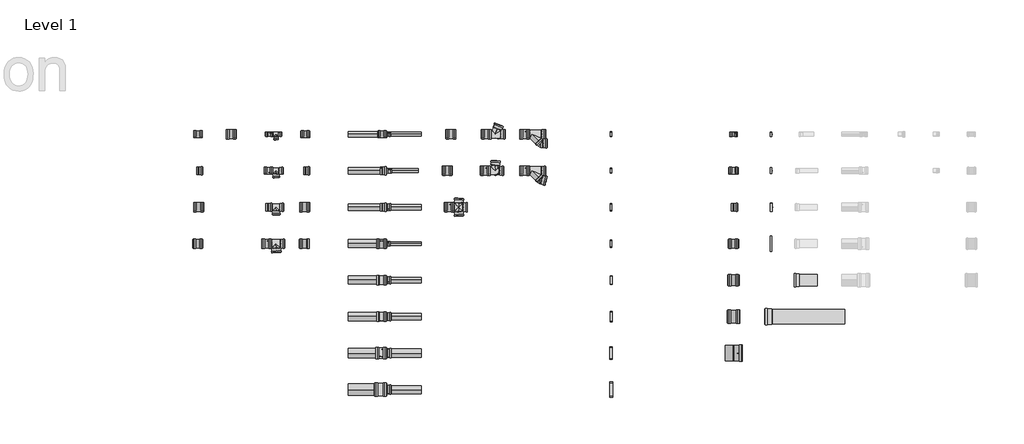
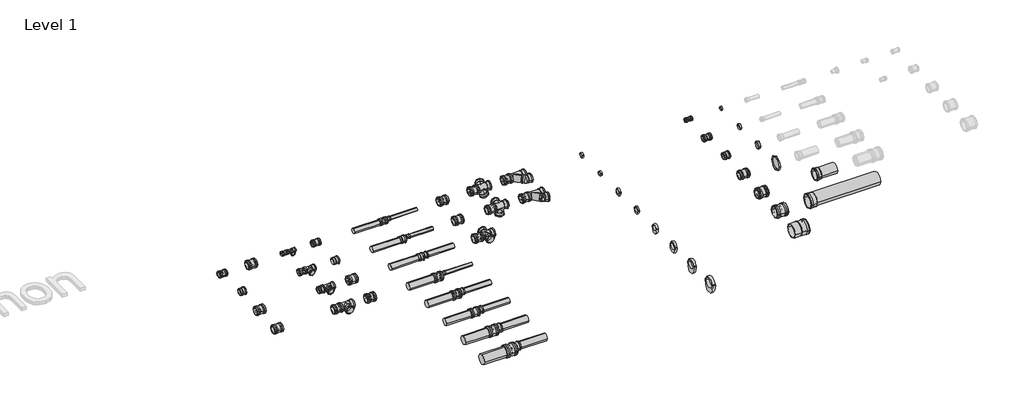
# One storey, part 2 of 3: 65 pipe fittings, 16 pipe segments, 8 valves.
"""IFC4 building model written with IfcOpenShell, lengths in millimetres."""

from ifc_helpers import new_model, si_unit, point, frame, frame_2d, origin, place, context, project, spatial, circle_curve, trimmed, segment, composite_curve, outline, extrude, transform, mapped, element, save
from components import pipe_fitting_0ced1fed, scp_parallel_e82be407, variable_82db6654, variable_50a6ec3d, variable_dd3b78e0, variable_3cd19208, variable_d2549ebe, variable_3cc18dde, variable_b4140f98, variable_fae0d510, variable_5deffc85, variable_7ff62537, variable_02581a42, variable_b181c17a, variable_11fd8723, variable_8ebde9d2, variable_34d79cbe, variable_b4e09c3a, variable_a446220a, variable_4479d033, variable_dde04700, variable_4588926f, variable_dae65326, variable_6d194c15, variable_2b32ee90, variable_52af7f45, variable_031db8d6, variable_7b3f4d0f, variable_81fd169b, variable_7b2c6562, variable_43ff1c23, variable_7b8b6ad0, variable_95dfb28e, variable_e1d51fd6, variable_fc7f2102, variable_69012b91, variable_43e88fef, variable_5c5cefdd, variable_5a5fc637, variable_bbadd806, variable_dcf68d9f, variable_3c150e15, variable_b777e5b6, variable_1d454c51

model = new_model("IFC4")

# Units and contexts
model_context = context("Model", 3, world=origin())
ifc_project = project(units=[si_unit("LENGTHUNIT", "METRE", prefix="MILLI")], contexts=[model_context])

# Site, building, storey
site = spatial("IfcSite", under=ifc_project)
building = spatial("IfcBuilding", under=site)
storey = spatial("IfcBuildingStorey", under=building, Name="Level 1", Elevation=0.0)

# Pipe fittings
placement = place(None, origin())
pipe_fitting_shape = pipe_fitting_0ced1fed(model_context)
element("IfcPipeFitting", 1, ObjectType="AliaxisFR_Friaphon_SpecialDoubleBranch_FR : SCT 15°", at=placement, inside=storey, context=model_context, shape_type="MappedRepresentation", body=[
    mapped(pipe_fitting_shape, transform((20670.1690876, -12904.8725202, 0.0), x_axis=(1.0, 0.0, 0.0), y_axis=(0.0, 1.0, 0.0), z_axis=(0.0, 0.0, 1.0))),
])
scp_parallel_shape = scp_parallel_e82be407(model_context)
element("IfcPipeFitting", 2, ObjectType="AliaxisFR_Friaphon_SpecialDoubleBranch_FR : SCP parallel", at=placement, inside=storey, context=model_context, shape_type="MappedRepresentation", body=[
    mapped(scp_parallel_shape, transform((20670.1690876, -12404.8725202, 0.0), x_axis=(1.0, 0.0, 0.0), y_axis=(0.0, 1.0, 0.0), z_axis=(0.0, 0.0, 1.0))),
])
variable_shape = variable_82db6654(model_context)
element("IfcPipeFitting", 3, ObjectType="AliaxisFR_Friaphon_DoubleCornerBranch_FR : Variable", at=placement, inside=storey, context=model_context, shape_type="MappedRepresentation", body=[
    mapped(variable_shape, transform((20170.1690876, -12404.8725202, 0.0), x_axis=(1.0, 0.0, 0.0), y_axis=(0.0, 1.0, 0.0), z_axis=(0.0, 0.0, 1.0))),
])
variable_2_shape = variable_50a6ec3d(model_context)
element("IfcPipeFitting", 4, ObjectType="AliaxisFR_Friaphon_AcousticCoupling_FR : Variable", at=placement, inside=storey, context=model_context, shape_type="MappedRepresentation", body=[
    mapped(variable_2_shape, transform((17079.6690876, -12404.8725202, 0.0), x_axis=(1.0, 0.0, 0.0), y_axis=(0.0, 1.0, 0.0), z_axis=(0.0, 0.0, 1.0))),
])
element("IfcPipeFitting", 5, ObjectType="AliaxisFR_Friaphon_AcousticCoupling_FR : Variable", at=placement, inside=storey, context=model_context, shape_type="MappedRepresentation", body=[
    mapped(variable_2_shape, transform((23432.3883735, -12404.8725202, 0.0), x_axis=(1.0, 0.0, 0.0), y_axis=(0.0, 1.0, 0.0), z_axis=(0.0, 0.0, 1.0))),
])
variable_3_shape = variable_dd3b78e0(model_context)
element("IfcPipeFitting", 6, ObjectType="AliaxisFR_Friaphon_Cap_FR : Variable", at=placement, inside=storey, context=model_context, shape_type="MappedRepresentation", body=[
    mapped(variable_3_shape, transform((23438.8883735, -13904.8725202, 0.0), x_axis=(1.0, 0.0, 0.0), y_axis=(0.0, 1.0, 0.0), z_axis=(0.0, 0.0, 1.0))),
])
variable_4_shape = variable_3cd19208(model_context)
element("IfcPipeFitting", 7, ObjectType="AliaxisFR_Friaphon_DoubleParallelBranch_FR : Variable", at=placement, inside=storey, context=model_context, shape_type="MappedRepresentation", body=[
    mapped(variable_4_shape, transform((19670.1690876, -13404.8725202, 0.0), x_axis=(1.0, 0.0, 0.0), y_axis=(0.0, 1.0, 0.0), z_axis=(0.0, 0.0, 1.0))),
])
variable_5_shape = variable_d2549ebe(model_context)
element("IfcPipeFitting", 8, ObjectType="AliaxisFR_Friaphon_DoubleCornerBranch_FR : Variable", at=placement, inside=storey, context=model_context, shape_type="MappedRepresentation", body=[
    mapped(variable_5_shape, transform((20170.1690876, -12904.8725202, 0.0), x_axis=(1.0, 0.0, 0.0), y_axis=(0.0, 1.0, 0.0), z_axis=(0.0, 0.0, 1.0))),
])
variable_6_shape = variable_3cc18dde(model_context)
element("IfcPipeFitting", 9, ObjectType="AliaxisFR_Friaphon_ScrewCap_FR : Variable", at=placement, inside=storey, context=model_context, shape_type="MappedRepresentation", body=[
    mapped(variable_6_shape, transform((23938.8883735, -13904.8725202, 0.0), x_axis=(1.0, 0.0, 0.0), y_axis=(0.0, 1.0, 0.0), z_axis=(0.0, 0.0, 1.0))),
])
variable_7_shape = variable_b4140f98(model_context)
element("IfcPipeFitting", 10, ObjectType="AliaxisFR_Friaphon_ScrewCap_FR : Variable", at=placement, inside=storey, context=model_context, shape_type="MappedRepresentation", body=[
    mapped(variable_7_shape, transform((23938.8883735, -12404.8725202, 0.0), x_axis=(1.0, 0.0, 0.0), y_axis=(0.0, 1.0, 0.0), z_axis=(0.0, 0.0, 1.0))),
])
variable_8_shape = variable_fae0d510(model_context)
element("IfcPipeFitting", 11, ObjectType="AliaxisFR_Friaphon_ScrewCap_FR : Variable", at=placement, inside=storey, context=model_context, shape_type="MappedRepresentation", body=[
    mapped(variable_8_shape, transform((23938.8883735, -12904.8725202, 0.0), x_axis=(1.0, 0.0, 0.0), y_axis=(0.0, 1.0, 0.0), z_axis=(0.0, 0.0, 1.0))),
])
variable_9_shape = variable_5deffc85(model_context)
element("IfcPipeFitting", 12, ObjectType="AliaxisFR_Friaphon_ScrewCap_FR : Variable", at=placement, inside=storey, context=model_context, shape_type="MappedRepresentation", body=[
    mapped(variable_9_shape, transform((23938.8883735, -13404.8725202, 0.0), x_axis=(1.0, 0.0, 0.0), y_axis=(0.0, 1.0, 0.0), z_axis=(0.0, 0.0, 1.0))),
])
variable_10_shape = variable_7ff62537(model_context)
element("IfcPipeFitting", 13, ObjectType="AliaxisFR_Friaphon_Cap_FR : Variable", at=placement, inside=storey, context=model_context, shape_type="MappedRepresentation", body=[
    mapped(variable_10_shape, transform((23438.8883735, -12404.8725202, 0.0), x_axis=(1.0, 0.0, 0.0), y_axis=(0.0, 1.0, 0.0), z_axis=(0.0, 0.0, 1.0))),
])
variable_11_shape = variable_02581a42(model_context)
element("IfcPipeFitting", 14, ObjectType="AliaxisFR_Friaphon_Cap_FR : Variable", at=placement, inside=storey, context=model_context, shape_type="MappedRepresentation", body=[
    mapped(variable_11_shape, transform((23438.8883735, -12904.8725202, 0.0), x_axis=(1.0, 0.0, 0.0), y_axis=(0.0, 1.0, 0.0), z_axis=(0.0, 0.0, 1.0))),
])
variable_12_shape = variable_b181c17a(model_context)
element("IfcPipeFitting", 15, ObjectType="AliaxisFR_Friaphon_Cap_FR : Variable", at=placement, inside=storey, context=model_context, shape_type="MappedRepresentation", body=[
    mapped(variable_12_shape, transform((23438.8883735, -13404.8725202, 0.0), x_axis=(1.0, 0.0, 0.0), y_axis=(0.0, 1.0, 0.0), z_axis=(0.0, 0.0, 1.0))),
])
variable_13_shape = variable_11fd8723(model_context)
element("IfcPipeFitting", 16, ObjectType="AliaxisFR_Friaphon_Cap_FR : Variable", at=placement, inside=storey, context=model_context, shape_type="MappedRepresentation", body=[
    mapped(variable_13_shape, transform((23438.8883735, -14404.8725202, 0.0), x_axis=(1.0, 0.0, 0.0), y_axis=(0.0, 1.0, 0.0), z_axis=(0.0, 0.0, 1.0))),
])
variable_14_shape = variable_8ebde9d2(model_context)
element("IfcPipeFitting", 17, ObjectType="AliaxisFR_Friaphon_Cap_FR : Variable", at=placement, inside=storey, context=model_context, shape_type="MappedRepresentation", body=[
    mapped(variable_14_shape, transform((23438.8883735, -14904.8725202, 0.0), x_axis=(1.0, 0.0, 0.0), y_axis=(0.0, 1.0, 0.0), z_axis=(0.0, 0.0, 1.0))),
])
variable_15_shape = variable_34d79cbe(model_context)
element("IfcPipeFitting", 18, ObjectType="AliaxisFR_Friaphon_Cap_FR : Variable", at=placement, inside=storey, context=model_context, shape_type="MappedRepresentation", body=[
    mapped(variable_15_shape, transform((23438.8883735, -15404.8725202, 0.0), x_axis=(1.0, 0.0, 0.0), y_axis=(0.0, 1.0, 0.0), z_axis=(0.0, 0.0, 1.0))),
])
variable_16_shape = variable_b4e09c3a(model_context)
element("IfcPipeFitting", 19, ObjectType="AliaxisFR_Friaphon_Reducer_FR : Variable", at=placement, inside=storey, context=model_context, shape_type="MappedRepresentation", body=[
    mapped(variable_16_shape, transform((18660.8862163, -12404.8725202, 0.0), x_axis=(1.0, 0.0, 0.0), y_axis=(0.0, 1.0, 0.0), z_axis=(0.0, 0.0, 1.0))),
])
variable_17_shape = variable_a446220a(model_context)
element("IfcPipeFitting", 20, ObjectType="AliaxisFR_Friaphon_Reducer_FR : Variable", at=placement, inside=storey, context=model_context, shape_type="MappedRepresentation", body=[
    mapped(variable_17_shape, transform((18668.1362163, -12904.8725202, 0.0), x_axis=(1.0, 0.0, 0.0), y_axis=(0.0, 1.0, 0.0), z_axis=(0.0, 0.0, 1.0))),
])
variable_18_shape = variable_4479d033(model_context)
element("IfcPipeFitting", 21, ObjectType="AliaxisFR_Friaphon_Reducer_FR : Variable", at=placement, inside=storey, context=model_context, shape_type="MappedRepresentation", body=[
    mapped(variable_18_shape, transform((18658.1362163, -13404.8725202, 0.0), x_axis=(-1.0, 0.0, 0.0), y_axis=(0.0, -1.0, 0.0), z_axis=(0.0, 0.0, 1.0))),
])
variable_19_shape = variable_dde04700(model_context)
element("IfcPipeFitting", 22, ObjectType="AliaxisFR_Friaphon_Reducer_FR : Variable", at=placement, inside=storey, context=model_context, shape_type="MappedRepresentation", body=[
    mapped(variable_19_shape, transform((18656.6362163, -13904.8725202, 0.0), x_axis=(1.0, 0.0, 0.0), y_axis=(0.0, 1.0, 0.0), z_axis=(0.0, 0.0, 1.0))),
])
variable_20_shape = variable_4588926f(model_context)
element("IfcPipeFitting", 23, ObjectType="AliaxisFR_Friaphon_Reducer_FR : Variable", at=placement, inside=storey, context=model_context, shape_type="MappedRepresentation", body=[
    mapped(variable_20_shape, transform((18656.6362163, -14404.8725202, 0.0), x_axis=(-1.0, 0.0, 0.0), y_axis=(0.0, -1.0, 0.0), z_axis=(0.0, 0.0, 1.0))),
])
variable_21_shape = variable_dae65326(model_context)
element("IfcPipeFitting", 24, ObjectType="AliaxisFR_Friaphon_Reducer_FR : Variable", at=placement, inside=storey, context=model_context, shape_type="MappedRepresentation", body=[
    mapped(variable_21_shape, transform((18656.8862163, -14904.8725202, 0.0), x_axis=(-1.0, 0.0, 0.0), y_axis=(0.0, -1.0, 0.0), z_axis=(0.0, 0.0, 1.0))),
])
variable_22_shape = variable_6d194c15(model_context)
element("IfcPipeFitting", 25, ObjectType="AliaxisFR_Friaphon_Reducer_FR : Variable", at=placement, inside=storey, context=model_context, shape_type="MappedRepresentation", body=[
    mapped(variable_22_shape, transform((18653.3862163, -15404.8725202, 0.0), x_axis=(-1.0, 0.0, 0.0), y_axis=(0.0, -1.0, 0.0), z_axis=(0.0, 0.0, 1.0))),
])
variable_23_shape = variable_2b32ee90(model_context)
element("IfcPipeFitting", 26, ObjectType="AliaxisFR_Friaphon_Reducer_FR : Variable", at=placement, inside=storey, context=model_context, shape_type="MappedRepresentation", body=[
    mapped(variable_23_shape, transform((18648.1362163, -15904.8725202, 0.0), x_axis=(-1.0, 0.0, 0.0), y_axis=(0.0, -1.0, 0.0), z_axis=(0.0, 0.0, 1.0))),
])
variable_24_shape = variable_52af7f45(model_context)
element("IfcPipeFitting", 27, ObjectType="AliaxisFR_Friaphon_Branch_FR : Variable", at=placement, inside=storey, context=model_context, shape_type="MappedRepresentation", body=[
    mapped(variable_24_shape, transform((17170.1690876, -12404.8725202, 0.0), x_axis=(1.0, 0.0, 0.0), y_axis=(0.0, 1.0, 0.0), z_axis=(0.0, 0.0, 1.0))),
])
variable_25_shape = variable_031db8d6(model_context)
element("IfcPipeFitting", 28, ObjectType="AliaxisFR_Friaphon_Branch_FR : Variable", at=placement, inside=storey, context=model_context, shape_type="MappedRepresentation", body=[
    mapped(variable_25_shape, transform((17170.1690876, -12904.8725202, 0.0), x_axis=(1.0, 0.0, 0.0), y_axis=(0.0, 1.0, 0.0), z_axis=(0.0, 0.0, 1.0))),
])
variable_26_shape = variable_7b3f4d0f(model_context)
element("IfcPipeFitting", 29, ObjectType="AliaxisFR_Friaphon_Branch_FR : Variable", at=placement, inside=storey, context=model_context, shape_type="MappedRepresentation", body=[
    mapped(variable_26_shape, transform((17170.1690876, -13404.8725202, 0.0), x_axis=(1.0, 0.0, 0.0), y_axis=(0.0, 1.0, 0.0), z_axis=(0.0, 0.0, 1.0))),
])
variable_27_shape = variable_81fd169b(model_context)
element("IfcPipeFitting", 30, ObjectType="AliaxisFR_Friaphon_Branch_FR : Variable", at=placement, inside=storey, context=model_context, shape_type="MappedRepresentation", body=[
    mapped(variable_27_shape, transform((17170.1690876, -13904.8725202, 0.0), x_axis=(1.0, 0.0, 0.0), y_axis=(0.0, 1.0, 0.0), z_axis=(0.0, 0.0, 1.0))),
])
variable_28_shape = variable_7b2c6562(model_context)
element("IfcPipeFitting", 31, ObjectType="AliaxisFR_Friaphon_AcousticCoupling_FR : Variable", at=placement, inside=storey, context=model_context, shape_type="MappedRepresentation", body=[
    mapped(variable_28_shape, transform((18624.6362163, -12404.8725202, -13.0), x_axis=(1.0, 0.0, 0.0), y_axis=(0.0, 1.0, 0.0), z_axis=(0.0, 0.0, 1.0))),
])
element("IfcPipeFitting", 32, ObjectType="AliaxisFR_Friaphon_AcousticCoupling_FR : Variable", at=placement, inside=storey, context=model_context, shape_type="MappedRepresentation", body=[
    mapped(variable_28_shape, transform((16102.6690876, -12404.8725202, 0.0), x_axis=(1.0, 0.0, 0.0), y_axis=(0.0, 1.0, 0.0), z_axis=(0.0, 0.0, 1.0))),
])
element("IfcPipeFitting", 33, ObjectType="AliaxisFR_Friaphon_AcousticCoupling_FR : Variable", at=placement, inside=storey, context=model_context, shape_type="MappedRepresentation", body=[
    mapped(variable_28_shape, transform((17067.6690876, -12904.8725202, 0.0), x_axis=(1.0, 0.0, 0.0), y_axis=(0.0, 1.0, 0.0), z_axis=(0.0, 0.0, 1.0))),
])
element("IfcPipeFitting", 34, ObjectType="AliaxisFR_Friaphon_AcousticCoupling_FR : Variable", at=placement, inside=storey, context=model_context, shape_type="MappedRepresentation", body=[
    mapped(variable_28_shape, transform((17571.6690876, -12404.8725202, 0.0), x_axis=(1.0, 0.0, 0.0), y_axis=(0.0, 1.0, 0.0), z_axis=(0.0, 0.0, 1.0))),
])
element("IfcPipeFitting", 35, ObjectType="AliaxisFR_Friaphon_AcousticCoupling_FR : Variable", at=placement, inside=storey, context=model_context, shape_type="MappedRepresentation", body=[
    mapped(variable_28_shape, transform((23432.3883735, -12904.8725202, 0.0), x_axis=(1.0, 0.0, 0.0), y_axis=(0.0, 1.0, 0.0), z_axis=(0.0, 0.0, 1.0))),
])
variable_29_shape = variable_43ff1c23(model_context)
element("IfcPipeFitting", 36, ObjectType="AliaxisFR_Friaphon_AcousticCoupling_FR : Variable", at=placement, inside=storey, context=model_context, shape_type="MappedRepresentation", body=[
    mapped(variable_29_shape, transform((18616.1362163, -13904.8725202, -29.0), x_axis=(1.0, 0.0, 0.0), y_axis=(0.0, 1.0, 0.0), z_axis=(0.0, 0.0, 1.0))),
])
element("IfcPipeFitting", 37, ObjectType="AliaxisFR_Friaphon_AcousticCoupling_FR : Variable", at=placement, inside=storey, context=model_context, shape_type="MappedRepresentation", body=[
    mapped(variable_29_shape, transform((18616.1362163, -14404.8725202, -16.0), x_axis=(-1.0, 0.0, 0.0), y_axis=(0.0, -1.0, 0.0), z_axis=(0.0, 0.0, 1.0))),
])
element("IfcPipeFitting", 38, ObjectType="AliaxisFR_Friaphon_AcousticCoupling_FR : Variable", at=placement, inside=storey, context=model_context, shape_type="MappedRepresentation", body=[
    mapped(variable_29_shape, transform((18616.1362163, -14904.8725202, -10.0), x_axis=(-1.0, 0.0, 0.0), y_axis=(0.0, -1.0, 0.0), z_axis=(0.0, 0.0, 1.0))),
])
element("IfcPipeFitting", 39, ObjectType="AliaxisFR_Friaphon_AcousticCoupling_FR : Variable", at=placement, inside=storey, context=model_context, shape_type="MappedRepresentation", body=[
    mapped(variable_29_shape, transform((16110.1690876, -13404.8725202, 0.0), x_axis=(1.0, 0.0, 0.0), y_axis=(0.0, 1.0, 0.0), z_axis=(0.0, 0.0, 1.0))),
])
element("IfcPipeFitting", 40, ObjectType="AliaxisFR_Friaphon_AcousticCoupling_FR : Variable", at=placement, inside=storey, context=model_context, shape_type="MappedRepresentation", body=[
    mapped(variable_29_shape, transform((16098.1690876, -13904.8725202, 0.0), x_axis=(1.0, 0.0, 0.0), y_axis=(0.0, 1.0, 0.0), z_axis=(0.0, 0.0, 1.0))),
])
element("IfcPipeFitting", 41, ObjectType="AliaxisFR_Friaphon_AcousticCoupling_FR : Variable", at=placement, inside=storey, context=model_context, shape_type="MappedRepresentation", body=[
    mapped(variable_29_shape, transform((16556.1690876, -12404.8725202, 0.0), x_axis=(1.0, 0.0, 0.0), y_axis=(0.0, 1.0, 0.0), z_axis=(0.0, 0.0, 1.0))),
])
element("IfcPipeFitting", 42, ObjectType="AliaxisFR_Friaphon_AcousticCoupling_FR : Variable", at=placement, inside=storey, context=model_context, shape_type="MappedRepresentation", body=[
    mapped(variable_29_shape, transform((17042.1690876, -13904.8725202, 0.0), x_axis=(1.0, 0.0, 0.0), y_axis=(0.0, 1.0, 0.0), z_axis=(0.0, 0.0, 1.0))),
])
element("IfcPipeFitting", 43, ObjectType="AliaxisFR_Friaphon_AcousticCoupling_FR : Variable", at=placement, inside=storey, context=model_context, shape_type="MappedRepresentation", body=[
    mapped(variable_29_shape, transform((17562.1690876, -13404.8725202, 0.0), x_axis=(1.0, 0.0, 0.0), y_axis=(0.0, 1.0, 0.0), z_axis=(0.0, 0.0, 1.0))),
])
element("IfcPipeFitting", 44, ObjectType="AliaxisFR_Friaphon_AcousticCoupling_FR : Variable", at=placement, inside=storey, context=model_context, shape_type="MappedRepresentation", body=[
    mapped(variable_29_shape, transform((17560.1690876, -13904.8725202, 0.0), x_axis=(1.0, 0.0, 0.0), y_axis=(0.0, 1.0, 0.0), z_axis=(0.0, 0.0, 1.0))),
])
element("IfcPipeFitting", 45, ObjectType="AliaxisFR_Friaphon_AcousticCoupling_FR : Variable", at=placement, inside=storey, context=model_context, shape_type="MappedRepresentation", body=[
    mapped(variable_29_shape, transform((19566.1690876, -12404.8725202, 0.0), x_axis=(1.0, 0.0, 0.0), y_axis=(0.0, 1.0, 0.0), z_axis=(0.0, 0.0, 1.0))),
])
element("IfcPipeFitting", 46, ObjectType="AliaxisFR_Friaphon_AcousticCoupling_FR : Variable", at=placement, inside=storey, context=model_context, shape_type="MappedRepresentation", body=[
    mapped(variable_29_shape, transform((19516.1690876, -12904.8725202, 0.0), x_axis=(1.0, 0.0, 0.0), y_axis=(0.0, 1.0, 0.0), z_axis=(0.0, 0.0, 1.0))),
])
element("IfcPipeFitting", 47, ObjectType="AliaxisFR_Friaphon_AcousticCoupling_FR : Variable", at=placement, inside=storey, context=model_context, shape_type="MappedRepresentation", body=[
    mapped(variable_29_shape, transform((19542.1690876, -13404.8725202, 0.0), x_axis=(1.0, 0.0, 0.0), y_axis=(0.0, 1.0, 0.0), z_axis=(0.0, 0.0, 1.0))),
])
element("IfcPipeFitting", 48, ObjectType="AliaxisFR_Friaphon_AcousticCoupling_FR : Variable", at=placement, inside=storey, context=model_context, shape_type="MappedRepresentation", body=[
    mapped(variable_29_shape, transform((20051.1690876, -12404.8725202, 0.0), x_axis=(1.0, 0.0, 0.0), y_axis=(0.0, 1.0, 0.0), z_axis=(0.0, 0.0, 1.0))),
])
element("IfcPipeFitting", 49, ObjectType="AliaxisFR_Friaphon_AcousticCoupling_FR : Variable", at=placement, inside=storey, context=model_context, shape_type="MappedRepresentation", body=[
    mapped(variable_29_shape, transform((20037.1690876, -12904.8725202, 0.0), x_axis=(1.0, 0.0, 0.0), y_axis=(0.0, 1.0, 0.0), z_axis=(0.0, 0.0, 1.0))),
])
element("IfcPipeFitting", 50, ObjectType="AliaxisFR_Friaphon_AcousticCoupling_FR : Variable", at=placement, inside=storey, context=model_context, shape_type="MappedRepresentation", body=[
    mapped(variable_29_shape, transform((20574.1690876, -12404.8725202, 0.0), x_axis=(1.0, 0.0, 0.0), y_axis=(0.0, 1.0, 0.0), z_axis=(0.0, 0.0, 1.0))),
])
element("IfcPipeFitting", 51, ObjectType="AliaxisFR_Friaphon_AcousticCoupling_FR : Variable", at=placement, inside=storey, context=model_context, shape_type="MappedRepresentation", body=[
    mapped(variable_29_shape, transform((20574.1690876, -12904.8725202, 0.0), x_axis=(1.0, 0.0, 0.0), y_axis=(0.0, 1.0, 0.0), z_axis=(0.0, 0.0, 1.0))),
])
element("IfcPipeFitting", 52, ObjectType="AliaxisFR_Friaphon_AcousticCoupling_FR : Variable", at=placement, inside=storey, context=model_context, shape_type="MappedRepresentation", body=[
    mapped(variable_29_shape, transform((23431.8883735, -13904.8725202, 0.0), x_axis=(1.0, 0.0, 0.0), y_axis=(0.0, 1.0, 0.0), z_axis=(0.0, 0.0, 1.0))),
])
variable_30_shape = variable_7b8b6ad0(model_context)
element("IfcPipeFitting", 53, ObjectType="AliaxisFR_Friaphon_AcousticCoupling_FR : Variable", at=placement, inside=storey, context=model_context, shape_type="MappedRepresentation", body=[
    mapped(variable_30_shape, transform((18609.1362163, -15404.8725202, -12.5), x_axis=(-1.0, 0.0, 0.0), y_axis=(0.0, -1.0, 0.0), z_axis=(0.0, 0.0, 1.0))),
])
element("IfcPipeFitting", 54, ObjectType="AliaxisFR_Friaphon_AcousticCoupling_FR : Variable", at=placement, inside=storey, context=model_context, shape_type="MappedRepresentation", body=[
    mapped(variable_30_shape, transform((23431.8883735, -14404.8725202, 0.0), x_axis=(1.0, 0.0, 0.0), y_axis=(0.0, 1.0, 0.0), z_axis=(0.0, 0.0, 1.0))),
])
variable_31_shape = variable_95dfb28e(model_context)
element("IfcPipeFitting", 55, ObjectType="AliaxisFR_Friaphon_AcousticCoupling_FR : Variable", at=placement, inside=storey, context=model_context, shape_type="MappedRepresentation", body=[
    mapped(variable_31_shape, transform((18599.1362163, -15904.8725202, -25.0), x_axis=(-1.0, 0.0, 0.0), y_axis=(0.0, -1.0, 0.0), z_axis=(0.0, 0.0, 1.0))),
])
element("IfcPipeFitting", 56, ObjectType="AliaxisFR_Friaphon_AcousticCoupling_FR : Variable", at=placement, inside=storey, context=model_context, shape_type="MappedRepresentation", body=[
    mapped(variable_31_shape, transform((23431.8883735, -14904.8725202, 0.0), x_axis=(1.0, 0.0, 0.0), y_axis=(0.0, 1.0, 0.0), z_axis=(0.0, 0.0, 1.0))),
])
variable_32_shape = variable_e1d51fd6(model_context)
element("IfcPipeFitting", 57, ObjectType="AliaxisFR_Friaphon_MixedCoupling_FR : Variable", at=placement, inside=storey, context=model_context, shape_type="MappedRepresentation", body=[
    mapped(variable_32_shape, transform((23432.8883735, -13404.8725202, 0.0), x_axis=(1.0, 0.0, 0.0), y_axis=(0.0, 1.0, 0.0), z_axis=(0.0, 0.0, 1.0))),
])
element("IfcPipeFitting", 58, ObjectType="AliaxisFR_Friaphon_MixedCoupling_FR : Variable", at=placement, inside=storey, context=model_context, shape_type="MappedRepresentation", body=[
    mapped(variable_32_shape, transform((18625.1362163, -12904.8725202, -19.0), x_axis=(1.0, 0.0, 0.0), y_axis=(0.0, 1.0, 0.0), z_axis=(0.0, 0.0, 1.0))),
])
element("IfcPipeFitting", 59, ObjectType="AliaxisFR_Friaphon_MixedCoupling_FR : Variable", at=placement, inside=storey, context=model_context, shape_type="MappedRepresentation", body=[
    mapped(variable_32_shape, transform((16111.1690876, -12904.8725202, 0.0), x_axis=(1.0, 0.0, 0.0), y_axis=(0.0, 1.0, 0.0), z_axis=(0.0, 0.0, 1.0))),
])
element("IfcPipeFitting", 60, ObjectType="AliaxisFR_Friaphon_MixedCoupling_FR : Variable", at=placement, inside=storey, context=model_context, shape_type="MappedRepresentation", body=[
    mapped(variable_32_shape, transform((17060.1690876, -13404.8725202, 0.0), x_axis=(1.0, 0.0, 0.0), y_axis=(0.0, 1.0, 0.0), z_axis=(0.0, 0.0, 1.0))),
])
element("IfcPipeFitting", 61, ObjectType="AliaxisFR_Friaphon_MixedCoupling_FR : Variable", at=placement, inside=storey, context=model_context, shape_type="MappedRepresentation", body=[
    mapped(variable_32_shape, transform((17576.1690876, -12904.8725202, 0.0), x_axis=(1.0, 0.0, 0.0), y_axis=(0.0, 1.0, 0.0), z_axis=(0.0, 0.0, 1.0))),
])
variable_33_shape = variable_fc7f2102(model_context)
element("IfcPipeFitting", 62, ObjectType="AliaxisFR_Friaphon_MixedCoupling_FR : Variable", at=placement, inside=storey, context=model_context, shape_type="MappedRepresentation", body=[
    mapped(variable_33_shape, transform((23431.3883735, -15404.8725202, 0.0), x_axis=(1.0, 0.0, 0.0), y_axis=(0.0, 1.0, 0.0), z_axis=(0.0, 0.0, 1.0))),
])
variable_34_shape = variable_69012b91(model_context)
element("IfcPipeFitting", 63, ObjectType="AliaxisFR_Friaphon_MixedCoupling_FR : Variable", at=placement, inside=storey, context=model_context, shape_type="MappedRepresentation", body=[
    mapped(variable_34_shape, transform((18625.1362163, -13404.8725202, -6.0), x_axis=(1.0, 0.0, 0.0), y_axis=(0.0, 1.0, 0.0), z_axis=(0.0, 0.0, 1.0))),
])
variable_35_shape = variable_43e88fef(model_context)
element("IfcPipeFitting", 64, ObjectType="AliaxisFR_Friaphon_LongCoupling_FR : Variable", at=placement, inside=storey, context=model_context, shape_type="MappedRepresentation", body=[
    mapped(variable_35_shape, transform((24458.8883735, -14404.8725202, 0.0), x_axis=(1.0, 0.0, 0.0), y_axis=(0.0, 1.0, 0.0), z_axis=(0.0, 0.0, 1.0))),
])
variable_36_shape = variable_5c5cefdd(model_context)
element("IfcPipeFitting", 65, ObjectType="AliaxisFR_Friaphon_LongCoupling_FR : Variable", at=placement, inside=storey, context=model_context, shape_type="MappedRepresentation", body=[
    mapped(variable_36_shape, transform((24458.8883735, -14904.8725202, 0.0), x_axis=(1.0, 0.0, 0.0), y_axis=(0.0, 1.0, 0.0), z_axis=(0.0, 0.0, 1.0))),
])

# Pipe segments
element("IfcPipeSegment", 66, ObjectType="Friaphon", at=placement, inside=storey, context=model_context, shape_type="SweptSolid", body=[
    extrude(outline(composite_curve([segment(trimmed(circle_curve(frame_2d((-12404.8725202, -13.0)), 39.0), [point((-12443.8725202, -13.0))], [point((-12404.8725202, 26.0))], False, "CARTESIAN"), True, "CONTINUOUS"), segment(trimmed(circle_curve(frame_2d((-12404.8725202, -13.0)), 39.0), [point((-12404.8725202, 26.0))], [point((-12365.8725202, -13.0))], False, "CARTESIAN"), True, "CONTINUOUS"), segment(trimmed(circle_curve(frame_2d((-12404.8725202, -13.0)), 39.0), [point((-12365.8725202, -13.0))], [point((-12404.8725202, -52.0))], False, "CARTESIAN"), True, "CONTINUOUS"), segment(trimmed(circle_curve(frame_2d((-12404.8725202, -13.0)), 39.0), [point((-12404.8725202, -52.0))], [point((-12443.8725202, -13.0))], False, "CARTESIAN"), True, "CONTINUOUS")], self_intersect=False)), frame((18160.8862163, 0.0, 0.0), z_axis=(1.0, 0.0, 0.0), x_axis=(0.0, 1.0, 0.0)), (0.0, 0.0, 1.0), 457.25),
])
element("IfcPipeSegment", 67, ObjectType="Friaphon", at=placement, inside=storey, context=model_context, shape_type="SweptSolid", body=[
    extrude(outline(composite_curve([segment(trimmed(circle_curve(frame_2d((-12404.8725202, 0.0)), 26.0), [point((-12430.8725202, 0.0))], [point((-12404.8725202, 26.0))], False, "CARTESIAN"), True, "CONTINUOUS"), segment(trimmed(circle_curve(frame_2d((-12404.8725202, 0.0)), 26.0), [point((-12404.8725202, 26.0))], [point((-12378.8725202, 0.0))], False, "CARTESIAN"), True, "CONTINUOUS"), segment(trimmed(circle_curve(frame_2d((-12404.8725202, 0.0)), 26.0), [point((-12378.8725202, 0.0))], [point((-12404.8725202, -26.0))], False, "CARTESIAN"), True, "CONTINUOUS"), segment(trimmed(circle_curve(frame_2d((-12404.8725202, 0.0)), 26.0), [point((-12404.8725202, -26.0))], [point((-12430.8725202, 0.0))], False, "CARTESIAN"), True, "CONTINUOUS")], self_intersect=False)), frame((18690.6362163, 0.0, 0.0), z_axis=(1.0, 0.0, 0.0), x_axis=(0.0, 1.0, 0.0)), (0.0, 0.0, 1.0), 470.25),
])
element("IfcPipeSegment", 68, ObjectType="Friaphon", at=placement, inside=storey, context=model_context, shape_type="SweptSolid", body=[
    extrude(outline(composite_curve([segment(trimmed(circle_curve(frame_2d((-12904.8725202, -19.0)), 45.0), [point((-12949.8725202, -19.0))], [point((-12904.8725202, 26.0))], False, "CARTESIAN"), True, "CONTINUOUS"), segment(trimmed(circle_curve(frame_2d((-12904.8725202, -19.0)), 45.0), [point((-12904.8725202, 26.0))], [point((-12859.8725202, -19.0))], False, "CARTESIAN"), True, "CONTINUOUS"), segment(trimmed(circle_curve(frame_2d((-12904.8725202, -19.0)), 45.0), [point((-12859.8725202, -19.0))], [point((-12904.8725202, -64.0))], False, "CARTESIAN"), True, "CONTINUOUS"), segment(trimmed(circle_curve(frame_2d((-12904.8725202, -19.0)), 45.0), [point((-12904.8725202, -64.0))], [point((-12949.8725202, -19.0))], False, "CARTESIAN"), True, "CONTINUOUS")], self_intersect=False)), frame((18160.8862163, 0.0, 0.0), z_axis=(1.0, 0.0, 0.0), x_axis=(0.0, 1.0, 0.0)), (0.0, 0.0, 1.0), 462.25),
])
element("IfcPipeSegment", 69, ObjectType="Friaphon", at=placement, inside=storey, context=model_context, shape_type="SweptSolid", body=[
    extrude(outline(composite_curve([segment(trimmed(circle_curve(frame_2d((-12904.8725202, 0.0)), 26.0), [point((-12930.8725202, 0.0))], [point((-12904.8725202, 26.0))], False, "CARTESIAN"), True, "CONTINUOUS"), segment(trimmed(circle_curve(frame_2d((-12904.8725202, 0.0)), 26.0), [point((-12904.8725202, 26.0))], [point((-12878.8725202, 0.0))], False, "CARTESIAN"), True, "CONTINUOUS"), segment(trimmed(circle_curve(frame_2d((-12904.8725202, 0.0)), 26.0), [point((-12878.8725202, 0.0))], [point((-12904.8725202, -26.0))], False, "CARTESIAN"), True, "CONTINUOUS"), segment(trimmed(circle_curve(frame_2d((-12904.8725202, 0.0)), 26.0), [point((-12904.8725202, -26.0))], [point((-12930.8725202, 0.0))], False, "CARTESIAN"), True, "CONTINUOUS")], self_intersect=False)), frame((18709.1362163, 0.0, 0.0), z_axis=(1.0, 0.0, 0.0), x_axis=(0.0, 1.0, 0.0)), (0.0, 0.0, 1.0), 410.75),
])
element("IfcPipeSegment", 70, ObjectType="Friaphon", at=placement, inside=storey, context=model_context, shape_type="SweptSolid", body=[
    extrude(outline(composite_curve([segment(trimmed(circle_curve(frame_2d((-13404.8725202, -6.0)), 45.0), [point((-13449.8725202, -6.0))], [point((-13404.8725202, 39.0))], False, "CARTESIAN"), True, "CONTINUOUS"), segment(trimmed(circle_curve(frame_2d((-13404.8725202, -6.0)), 45.0), [point((-13404.8725202, 39.0))], [point((-13359.8725202, -6.0))], False, "CARTESIAN"), True, "CONTINUOUS"), segment(trimmed(circle_curve(frame_2d((-13404.8725202, -6.0)), 45.0), [point((-13359.8725202, -6.0))], [point((-13404.8725202, -51.0))], False, "CARTESIAN"), True, "CONTINUOUS"), segment(trimmed(circle_curve(frame_2d((-13404.8725202, -6.0)), 45.0), [point((-13404.8725202, -51.0))], [point((-13449.8725202, -6.0))], False, "CARTESIAN"), True, "CONTINUOUS")], self_intersect=False)), frame((18160.8862163, 0.0, 0.0), z_axis=(1.0, 0.0, 0.0), x_axis=(0.0, 1.0, 0.0)), (0.0, 0.0, 1.0), 462.25),
])
element("IfcPipeSegment", 71, ObjectType="Friaphon", at=placement, inside=storey, context=model_context, shape_type="SweptSolid", body=[
    extrude(outline(composite_curve([segment(trimmed(circle_curve(frame_2d((-13404.8725202, 0.0)), 39.0), [point((-13443.8725202, 0.0))], [point((-13404.8725202, 39.0))], False, "CARTESIAN"), True, "CONTINUOUS"), segment(trimmed(circle_curve(frame_2d((-13404.8725202, 0.0)), 39.0), [point((-13404.8725202, 39.0))], [point((-13365.8725202, 0.0))], False, "CARTESIAN"), True, "CONTINUOUS"), segment(trimmed(circle_curve(frame_2d((-13404.8725202, 0.0)), 39.0), [point((-13365.8725202, 0.0))], [point((-13404.8725202, -39.0))], False, "CARTESIAN"), True, "CONTINUOUS"), segment(trimmed(circle_curve(frame_2d((-13404.8725202, 0.0)), 39.0), [point((-13404.8725202, -39.0))], [point((-13443.8725202, 0.0))], False, "CARTESIAN"), True, "CONTINUOUS")], self_intersect=False)), frame((18689.1362163, 0.0, 0.0), z_axis=(1.0, 0.0, 0.0), x_axis=(0.0, 1.0, 0.0)), (0.0, 0.0, 1.0), 471.75),
])
element("IfcPipeSegment", 72, ObjectType="Friaphon", at=placement, inside=storey, context=model_context, shape_type="SweptSolid", body=[
    extrude(outline(composite_curve([segment(trimmed(circle_curve(frame_2d((-13904.8725202, -29.0)), 55.0), [point((-13959.8725202, -29.0))], [point((-13904.8725202, 26.0))], False, "CARTESIAN"), True, "CONTINUOUS"), segment(trimmed(circle_curve(frame_2d((-13904.8725202, -29.0)), 55.0), [point((-13904.8725202, 26.0))], [point((-13849.8725202, -29.0))], False, "CARTESIAN"), True, "CONTINUOUS"), segment(trimmed(circle_curve(frame_2d((-13904.8725202, -29.0)), 55.0), [point((-13849.8725202, -29.0))], [point((-13904.8725202, -84.0))], False, "CARTESIAN"), True, "CONTINUOUS"), segment(trimmed(circle_curve(frame_2d((-13904.8725202, -29.0)), 55.0), [point((-13904.8725202, -84.0))], [point((-13959.8725202, -29.0))], False, "CARTESIAN"), True, "CONTINUOUS")], self_intersect=False)), frame((18160.8862163, 0.0, 0.0), z_axis=(1.0, 0.0, 0.0), x_axis=(0.0, 1.0, 0.0)), (0.0, 0.0, 1.0), 448.25),
])
element("IfcPipeSegment", 73, ObjectType="Friaphon", at=placement, inside=storey, context=model_context, shape_type="SweptSolid", body=[
    extrude(outline(composite_curve([segment(trimmed(circle_curve(frame_2d((-13904.8725202, 0.0)), 26.0), [point((-13930.8725202, 0.0))], [point((-13904.8725202, 26.0))], False, "CARTESIAN"), True, "CONTINUOUS"), segment(trimmed(circle_curve(frame_2d((-13904.8725202, 0.0)), 26.0), [point((-13904.8725202, 26.0))], [point((-13878.8725202, 0.0))], False, "CARTESIAN"), True, "CONTINUOUS"), segment(trimmed(circle_curve(frame_2d((-13904.8725202, 0.0)), 26.0), [point((-13878.8725202, 0.0))], [point((-13904.8725202, -26.0))], False, "CARTESIAN"), True, "CONTINUOUS"), segment(trimmed(circle_curve(frame_2d((-13904.8725202, 0.0)), 26.0), [point((-13904.8725202, -26.0))], [point((-13930.8725202, 0.0))], False, "CARTESIAN"), True, "CONTINUOUS")], self_intersect=False)), frame((18690.1362163, 0.0, 0.0), z_axis=(1.0, 0.0, 0.0), x_axis=(0.0, 1.0, 0.0)), (0.0, 0.0, 1.0), 470.75),
])
element("IfcPipeSegment", 74, ObjectType="Friaphon", at=placement, inside=storey, context=model_context, shape_type="SweptSolid", body=[
    extrude(outline(composite_curve([segment(trimmed(circle_curve(frame_2d((-14404.8725202, -16.0)), 55.0), [point((-14459.8725202, -16.0))], [point((-14404.8725202, 39.0))], False, "CARTESIAN"), True, "CONTINUOUS"), segment(trimmed(circle_curve(frame_2d((-14404.8725202, -16.0)), 55.0), [point((-14404.8725202, 39.0))], [point((-14349.8725202, -16.0))], False, "CARTESIAN"), True, "CONTINUOUS"), segment(trimmed(circle_curve(frame_2d((-14404.8725202, -16.0)), 55.0), [point((-14349.8725202, -16.0))], [point((-14404.8725202, -71.0))], False, "CARTESIAN"), True, "CONTINUOUS"), segment(trimmed(circle_curve(frame_2d((-14404.8725202, -16.0)), 55.0), [point((-14404.8725202, -71.0))], [point((-14459.8725202, -16.0))], False, "CARTESIAN"), True, "CONTINUOUS")], self_intersect=False)), frame((18160.8862163, 0.0, 0.0), z_axis=(1.0, 0.0, 0.0), x_axis=(0.0, 1.0, 0.0)), (0.0, 0.0, 1.0), 448.25),
])
element("IfcPipeSegment", 75, ObjectType="Friaphon", at=placement, inside=storey, context=model_context, shape_type="SweptSolid", body=[
    extrude(outline(composite_curve([segment(trimmed(circle_curve(frame_2d((-14404.8725202, 0.0)), 39.0), [point((-14443.8725202, 0.0))], [point((-14404.8725202, 39.0))], False, "CARTESIAN"), True, "CONTINUOUS"), segment(trimmed(circle_curve(frame_2d((-14404.8725202, 0.0)), 39.0), [point((-14404.8725202, 39.0))], [point((-14365.8725202, 0.0))], False, "CARTESIAN"), True, "CONTINUOUS"), segment(trimmed(circle_curve(frame_2d((-14404.8725202, 0.0)), 39.0), [point((-14365.8725202, 0.0))], [point((-14404.8725202, -39.0))], False, "CARTESIAN"), True, "CONTINUOUS"), segment(trimmed(circle_curve(frame_2d((-14404.8725202, 0.0)), 39.0), [point((-14404.8725202, -39.0))], [point((-14443.8725202, 0.0))], False, "CARTESIAN"), True, "CONTINUOUS")], self_intersect=False)), frame((18690.1362163, 0.0, 0.0), z_axis=(1.0, 0.0, 0.0), x_axis=(0.0, 1.0, 0.0)), (0.0, 0.0, 1.0), 470.75),
])
element("IfcPipeSegment", 76, ObjectType="Friaphon", at=placement, inside=storey, context=model_context, shape_type="SweptSolid", body=[
    extrude(outline(composite_curve([segment(trimmed(circle_curve(frame_2d((-14904.8725202, -10.0)), 55.0), [point((-14959.8725202, -10.0))], [point((-14904.8725202, 45.0))], False, "CARTESIAN"), True, "CONTINUOUS"), segment(trimmed(circle_curve(frame_2d((-14904.8725202, -10.0)), 55.0), [point((-14904.8725202, 45.0))], [point((-14849.8725202, -10.0))], False, "CARTESIAN"), True, "CONTINUOUS"), segment(trimmed(circle_curve(frame_2d((-14904.8725202, -10.0)), 55.0), [point((-14849.8725202, -10.0))], [point((-14904.8725202, -65.0))], False, "CARTESIAN"), True, "CONTINUOUS"), segment(trimmed(circle_curve(frame_2d((-14904.8725202, -10.0)), 55.0), [point((-14904.8725202, -65.0))], [point((-14959.8725202, -10.0))], False, "CARTESIAN"), True, "CONTINUOUS")], self_intersect=False)), frame((18160.8862163, 0.0, 0.0), z_axis=(1.0, 0.0, 0.0), x_axis=(0.0, 1.0, 0.0)), (0.0, 0.0, 1.0), 448.25),
])
element("IfcPipeSegment", 77, ObjectType="Friaphon", at=placement, inside=storey, context=model_context, shape_type="SweptSolid", body=[
    extrude(outline(composite_curve([segment(trimmed(circle_curve(frame_2d((-14904.8725202, 0.0)), 45.0), [point((-14949.8725202, 0.0))], [point((-14904.8725202, 45.0))], False, "CARTESIAN"), True, "CONTINUOUS"), segment(trimmed(circle_curve(frame_2d((-14904.8725202, 0.0)), 45.0), [point((-14904.8725202, 45.0))], [point((-14859.8725202, 0.0))], False, "CARTESIAN"), True, "CONTINUOUS"), segment(trimmed(circle_curve(frame_2d((-14904.8725202, 0.0)), 45.0), [point((-14859.8725202, 0.0))], [point((-14904.8725202, -45.0))], False, "CARTESIAN"), True, "CONTINUOUS"), segment(trimmed(circle_curve(frame_2d((-14904.8725202, 0.0)), 45.0), [point((-14904.8725202, -45.0))], [point((-14949.8725202, 0.0))], False, "CARTESIAN"), True, "CONTINUOUS")], self_intersect=False)), frame((18690.6362163, 0.0, 0.0), z_axis=(1.0, 0.0, 0.0), x_axis=(0.0, 1.0, 0.0)), (0.0, 0.0, 1.0), 470.25),
])
element("IfcPipeSegment", 78, ObjectType="Friaphon", at=placement, inside=storey, context=model_context, shape_type="SweptSolid", body=[
    extrude(outline(composite_curve([segment(trimmed(circle_curve(frame_2d((-15404.8725202, -12.5)), 67.5), [point((-15472.3725202, -12.5))], [point((-15404.8725202, 55.0))], False, "CARTESIAN"), True, "CONTINUOUS"), segment(trimmed(circle_curve(frame_2d((-15404.8725202, -12.5)), 67.5), [point((-15404.8725202, 55.0))], [point((-15337.3725202, -12.5))], False, "CARTESIAN"), True, "CONTINUOUS"), segment(trimmed(circle_curve(frame_2d((-15404.8725202, -12.5)), 67.5), [point((-15337.3725202, -12.5))], [point((-15404.8725202, -80.0))], False, "CARTESIAN"), True, "CONTINUOUS"), segment(trimmed(circle_curve(frame_2d((-15404.8725202, -12.5)), 67.5), [point((-15404.8725202, -80.0))], [point((-15472.3725202, -12.5))], False, "CARTESIAN"), True, "CONTINUOUS")], self_intersect=False)), frame((18160.8862163, 0.0, 0.0), z_axis=(1.0, 0.0, 0.0), x_axis=(0.0, 1.0, 0.0)), (0.0, 0.0, 1.0), 441.25),
])
element("IfcPipeSegment", 79, ObjectType="Friaphon", at=placement, inside=storey, context=model_context, shape_type="SweptSolid", body=[
    extrude(outline(composite_curve([segment(trimmed(circle_curve(frame_2d((-15404.8725202, 0.0)), 55.0), [point((-15459.8725202, 0.0))], [point((-15404.8725202, 55.0))], False, "CARTESIAN"), True, "CONTINUOUS"), segment(trimmed(circle_curve(frame_2d((-15404.8725202, 0.0)), 55.0), [point((-15404.8725202, 55.0))], [point((-15349.8725202, 0.0))], False, "CARTESIAN"), True, "CONTINUOUS"), segment(trimmed(circle_curve(frame_2d((-15404.8725202, 0.0)), 55.0), [point((-15349.8725202, 0.0))], [point((-15404.8725202, -55.0))], False, "CARTESIAN"), True, "CONTINUOUS"), segment(trimmed(circle_curve(frame_2d((-15404.8725202, 0.0)), 55.0), [point((-15404.8725202, -55.0))], [point((-15459.8725202, 0.0))], False, "CARTESIAN"), True, "CONTINUOUS")], self_intersect=False)), frame((18690.6362163, 0.0, 0.0), z_axis=(1.0, 0.0, 0.0), x_axis=(0.0, 1.0, 0.0)), (0.0, 0.0, 1.0), 470.25),
])
element("IfcPipeSegment", 80, ObjectType="Friaphon", at=placement, inside=storey, context=model_context, shape_type="SweptSolid", body=[
    extrude(outline(composite_curve([segment(trimmed(circle_curve(frame_2d((-15904.8725202, -25.0)), 80.0), [point((-15984.8725202, -25.0))], [point((-15904.8725202, 55.0))], False, "CARTESIAN"), True, "CONTINUOUS"), segment(trimmed(circle_curve(frame_2d((-15904.8725202, -25.0)), 80.0), [point((-15904.8725202, 55.0))], [point((-15824.8725202, -25.0))], False, "CARTESIAN"), True, "CONTINUOUS"), segment(trimmed(circle_curve(frame_2d((-15904.8725202, -25.0)), 80.0), [point((-15824.8725202, -25.0))], [point((-15904.8725202, -105.0))], False, "CARTESIAN"), True, "CONTINUOUS"), segment(trimmed(circle_curve(frame_2d((-15904.8725202, -25.0)), 80.0), [point((-15904.8725202, -105.0))], [point((-15984.8725202, -25.0))], False, "CARTESIAN"), True, "CONTINUOUS")], self_intersect=False)), frame((18160.8862163, 0.0, 0.0), z_axis=(1.0, 0.0, 0.0), x_axis=(0.0, 1.0, 0.0)), (0.0, 0.0, 1.0), 431.25),
])
element("IfcPipeSegment", 81, ObjectType="Friaphon", at=placement, inside=storey, context=model_context, shape_type="SweptSolid", body=[
    extrude(outline(composite_curve([segment(trimmed(circle_curve(frame_2d((-15904.8725202, 0.0)), 55.0), [point((-15959.8725202, 0.0))], [point((-15904.8725202, 55.0))], False, "CARTESIAN"), True, "CONTINUOUS"), segment(trimmed(circle_curve(frame_2d((-15904.8725202, 0.0)), 55.0), [point((-15904.8725202, 55.0))], [point((-15849.8725202, 0.0))], False, "CARTESIAN"), True, "CONTINUOUS"), segment(trimmed(circle_curve(frame_2d((-15904.8725202, 0.0)), 55.0), [point((-15849.8725202, 0.0))], [point((-15904.8725202, -55.0))], False, "CARTESIAN"), True, "CONTINUOUS"), segment(trimmed(circle_curve(frame_2d((-15904.8725202, 0.0)), 55.0), [point((-15904.8725202, -55.0))], [point((-15959.8725202, 0.0))], False, "CARTESIAN"), True, "CONTINUOUS")], self_intersect=False)), frame((18690.1362163, 0.0, 0.0), z_axis=(1.0, 0.0, 0.0), x_axis=(0.0, 1.0, 0.0)), (0.0, 0.0, 1.0), 470.75),
])

# Valves
variable_37_shape = variable_5a5fc637(model_context)
element("IfcValve", 82, ObjectType="AliaxisFR_Friaphon_PhonoklipBracket_FR : Variable", at=placement, inside=storey, context=model_context, shape_type="MappedRepresentation", body=[
    mapped(variable_37_shape, transform((21758.8883735, -14904.8725202, 0.0), x_axis=(1.0, 0.0, 0.0), y_axis=(0.0, 1.0, 0.0), z_axis=(0.0, 0.0, 1.0))),
])
variable_38_shape = variable_bbadd806(model_context)
element("IfcValve", 83, ObjectType="AliaxisFR_Friaphon_PhonoklipBracket_FR : Variable", at=placement, inside=storey, context=model_context, shape_type="MappedRepresentation", body=[
    mapped(variable_38_shape, transform((21758.8883735, -12904.8725202, 0.0), x_axis=(1.0, 0.0, 0.0), y_axis=(0.0, 1.0, 0.0), z_axis=(0.0, 0.0, 1.0))),
])
element("IfcValve", 84, ObjectType="AliaxisFR_Friaphon_PhonoklipBracket_FR : Variable", at=placement, inside=storey, context=model_context, shape_type="MappedRepresentation", body=[
    mapped(variable_38_shape, transform((21758.8883735, -12404.8725202, 0.0), x_axis=(1.0, 0.0, 0.0), y_axis=(0.0, 1.0, 0.0), z_axis=(0.0, 0.0, 1.0))),
])
variable_39_shape = variable_dcf68d9f(model_context)
element("IfcValve", 85, ObjectType="AliaxisFR_Friaphon_PhonoklipBracket_FR : Variable", at=placement, inside=storey, context=model_context, shape_type="MappedRepresentation", body=[
    mapped(variable_39_shape, transform((21758.8883735, -13404.8725202, 0.0), x_axis=(1.0, 0.0, 0.0), y_axis=(0.0, 1.0, 0.0), z_axis=(0.0, 0.0, 1.0))),
])
element("IfcValve", 86, ObjectType="AliaxisFR_Friaphon_PhonoklipBracket_FR : Variable", at=placement, inside=storey, context=model_context, shape_type="MappedRepresentation", body=[
    mapped(variable_39_shape, transform((21758.8883735, -13904.8725202, 0.0), x_axis=(1.0, 0.0, 0.0), y_axis=(0.0, 1.0, 0.0), z_axis=(0.0, 0.0, 1.0))),
])
variable_40_shape = variable_3c150e15(model_context)
element("IfcValve", 87, ObjectType="AliaxisFR_Friaphon_PhonoklipBracket_FR : Variable", at=placement, inside=storey, context=model_context, shape_type="MappedRepresentation", body=[
    mapped(variable_40_shape, transform((21758.8883735, -14404.8725202, 0.0), x_axis=(1.0, 0.0, 0.0), y_axis=(0.0, 1.0, 0.0), z_axis=(0.0, 0.0, 1.0))),
])
variable_41_shape = variable_b777e5b6(model_context)
element("IfcValve", 88, ObjectType="AliaxisFR_Friaphon_PhonoklipBracket_FR : Variable", at=placement, inside=storey, context=model_context, shape_type="MappedRepresentation", body=[
    mapped(variable_41_shape, transform((21758.8883735, -15404.8725202, 0.0), x_axis=(1.0, 0.0, 0.0), y_axis=(0.0, 1.0, 0.0), z_axis=(0.0, 0.0, 1.0))),
])
variable_42_shape = variable_1d454c51(model_context)
element("IfcValve", 89, ObjectType="AliaxisFR_Friaphon_PhonoklipBracket_FR : Variable", at=placement, inside=storey, context=model_context, shape_type="MappedRepresentation", body=[
    mapped(variable_42_shape, transform((21758.8883735, -15904.8725202, 0.0), x_axis=(1.0, 0.0, 0.0), y_axis=(0.0, 1.0, 0.0), z_axis=(0.0, 0.0, 1.0))),
])

save(model, "model.ifc")
